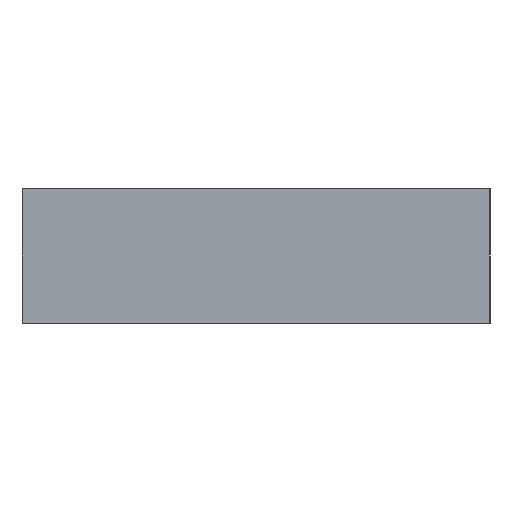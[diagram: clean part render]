
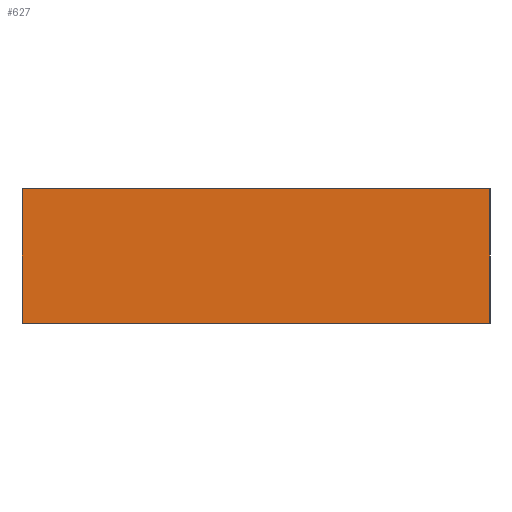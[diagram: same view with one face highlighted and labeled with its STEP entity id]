
A CAD part, left-side view. The second image highlights one B-rep face of the part: STEP entity #627.
In plain terms, the highlighted planar face has unit normal (-1, 0, 0).
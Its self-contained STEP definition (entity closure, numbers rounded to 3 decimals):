
#627 = ADVANCED_FACE ( 'NONE', ( #2702 ), #11734, .F. ) ;
#1669 = DIRECTION ( 'NONE',  ( 0., 0., -1. ) ) ;
#1825 = ORIENTED_EDGE ( 'NONE', *, *, #7387, .F. ) ;
#1843 = CARTESIAN_POINT ( 'NONE',  ( -350., 85.5, 49.3 ) ) ;
#1941 = DIRECTION ( 'NONE',  ( 0., 0., -1. ) ) ;
#1942 = ORIENTED_EDGE ( 'NONE', *, *, #12878, .T. ) ;
#2180 = DIRECTION ( 'NONE',  ( 0., 0., -1. ) ) ;
#2201 = LINE ( 'NONE', #7172, #12661 ) ;
#2244 = ORIENTED_EDGE ( 'NONE', *, *, #13110, .F. ) ;
#2548 = CARTESIAN_POINT ( 'NONE',  ( -350., 85.5, 49.3 ) ) ;
#2702 = FACE_OUTER_BOUND ( 'NONE', #6395, .T. ) ;
#3256 = AXIS2_PLACEMENT_3D ( 'NONE', #2548, #5602, #1669 ) ;
#3739 = CARTESIAN_POINT ( 'NONE',  ( -350., 85.5, 0. ) ) ;
#3835 = VERTEX_POINT ( 'NONE', #5085 ) ;
#3862 = ORIENTED_EDGE ( 'NONE', *, *, #10709, .T. ) ;
#4440 = DIRECTION ( 'NONE',  ( 0., -1., 0. ) ) ;
#5085 = CARTESIAN_POINT ( 'NONE',  ( -350., -85.5, 49.3 ) ) ;
#5602 = DIRECTION ( 'NONE',  ( 1., 0., 0. ) ) ;
#5686 = LINE ( 'NONE', #6508, #6003 ) ;
#6003 = VECTOR ( 'NONE', #4440, 1000. ) ;
#6395 = EDGE_LOOP ( 'NONE', ( #1942, #2244, #1825, #3862 ) ) ;
#6508 = CARTESIAN_POINT ( 'NONE',  ( -350., 85.5, 49.3 ) ) ;
#6675 = VERTEX_POINT ( 'NONE', #9536 ) ;
#6937 = CARTESIAN_POINT ( 'NONE',  ( -350., 85.5, 49.3 ) ) ;
#7172 = CARTESIAN_POINT ( 'NONE',  ( -350., -85.5, 49.3 ) ) ;
#7387 = EDGE_CURVE ( 'NONE', #9383, #3835, #5686, .T. ) ;
#7746 = LINE ( 'NONE', #3739, #9800 ) ;
#9383 = VERTEX_POINT ( 'NONE', #1843 ) ;
#9536 = CARTESIAN_POINT ( 'NONE',  ( -350., 85.5, 0. ) ) ;
#9800 = VECTOR ( 'NONE', #12902, 1000. ) ;
#10044 = LINE ( 'NONE', #6937, #11328 ) ;
#10709 = EDGE_CURVE ( 'NONE', #9383, #6675, #10044, .T. ) ;
#11120 = CARTESIAN_POINT ( 'NONE',  ( -350., -85.5, 0. ) ) ;
#11328 = VECTOR ( 'NONE', #1941, 1000. ) ;
#11734 = PLANE ( 'NONE',  #3256 ) ;
#12412 = VERTEX_POINT ( 'NONE', #11120 ) ;
#12661 = VECTOR ( 'NONE', #2180, 1000. ) ;
#12878 = EDGE_CURVE ( 'NONE', #6675, #12412, #7746, .T. ) ;
#12902 = DIRECTION ( 'NONE',  ( 0., -1., 0. ) ) ;
#13110 = EDGE_CURVE ( 'NONE', #3835, #12412, #2201, .T. ) ;
